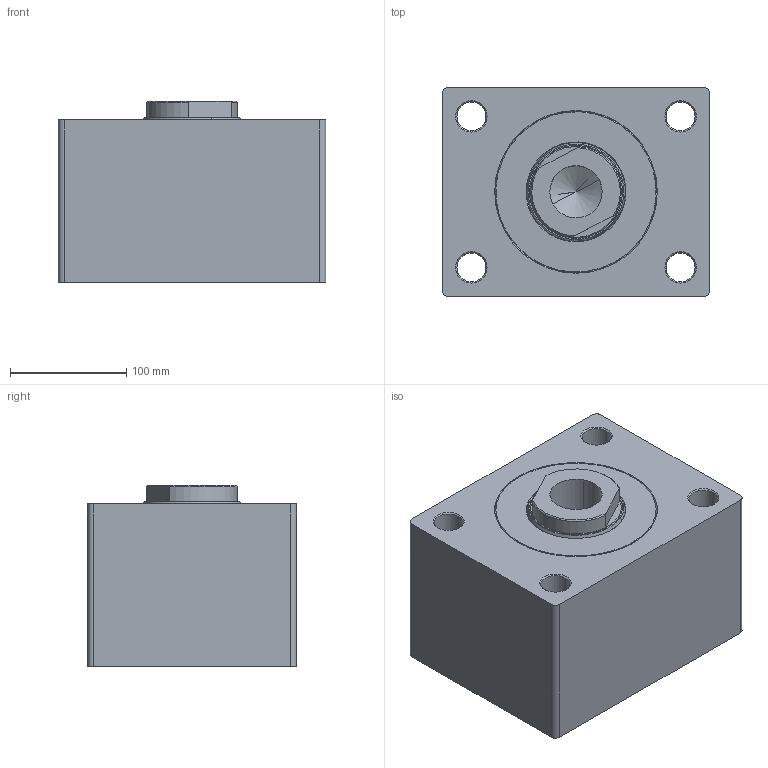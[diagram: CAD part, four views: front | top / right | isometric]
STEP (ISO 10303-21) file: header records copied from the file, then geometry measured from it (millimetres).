
FILE_DESCRIPTION (( 'STEP AP214' ), '1' );
FILE_NAME ('KBZ_02_125_80_30.STEP', '2023-05-19T20:46:04', ( '' ), ( '' ), 'SwSTEP 2.0', 'SolidWorks 2021', '' );
FILE_SCHEMA (( 'AUTOMOTIVE_DESIGN' ));
Length unit declared in the file: millimetre
Products named in the file (9): KBZ_02_125_80_30; KBZ_02_125_80_ON_KAPAK; K68-80X85X9_7(K68_080_3); KBZ_80_K_MIL_WEB; K22-80X90X12(K22_080); KBZ_02_125_GOVDE_WEB; K84-128; K06-80X92_2X7_2X12(K06_080)
Assembly tree (8 placements, depth 3):
  KBZ_02_125_80_30
    KBZ_02_125_GOVDE_WEB
    KBZ_80_K_MIL_WEB
    KBZ_02_125_80_ON_KAPAK
      KBZ_02_125_80_ON_KAPAK
      K06-80X92_2X7_2X12(K06_080)
      K22-80X90X12(K22_080)
      K68-80X85X9_7(K68_080_3)
      K84-128
Bounding box: 230 x 180 x 156 mm (x, y, z)
Volume: 5360198 mm3; surface area: 422811.7 mm2
Topology: 7 solids, 7 shells, 574 faces, 1391 edges, 885 vertices
Faces by surface type: bspline 261, plane 175, cylinder 71, cone 65, torus 2
Entity records: 28125 total; most frequent: CARTESIAN_POINT 16036, ORIENTED_EDGE 2778, DIRECTION 1700, EDGE_CURVE 1389, VERTEX_POINT 885, EDGE_LOOP 648, VECTOR 644, LINE 644
